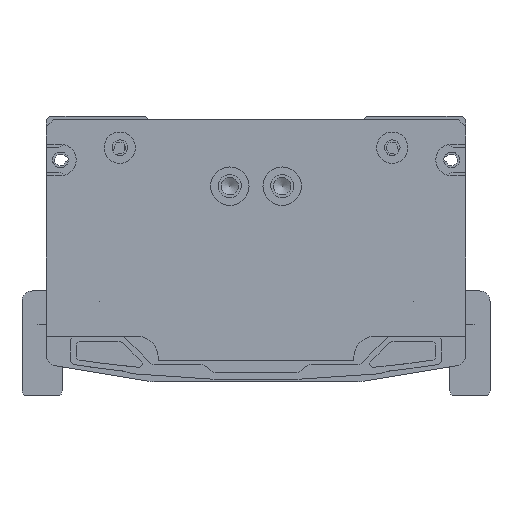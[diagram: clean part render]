
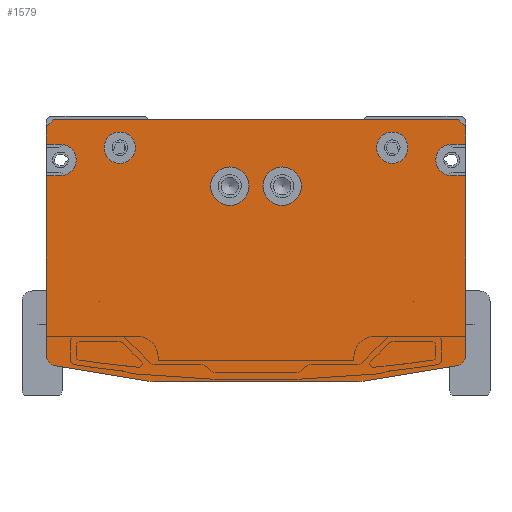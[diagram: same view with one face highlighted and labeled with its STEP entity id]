
A CAD part, front view. The second image highlights one B-rep face of the part: STEP entity #1579.
In plain terms, the highlighted planar face has unit normal (0, -1, 0).
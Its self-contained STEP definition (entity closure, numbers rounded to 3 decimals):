
#1579=ADVANCED_FACE('',(#4764,#4765,#4766,#4767,#4768),#2196,.F.);
#2196=PLANE('',#15707);
#2639=LINE('',#22442,#3688);
#2643=LINE('',#22450,#3692);
#2777=LINE('',#23235,#3826);
#2804=LINE('',#23289,#3853);
#2808=LINE('',#23297,#3857);
#2982=LINE('',#24484,#4031);
#2984=LINE('',#24487,#4033);
#2988=LINE('',#24494,#4037);
#2991=LINE('',#24503,#4040);
#3004=LINE('',#24538,#4053);
#3009=LINE('',#24552,#4058);
#3013=LINE('',#24564,#4062);
#3035=LINE('',#24626,#4084);
#3038=LINE('',#24635,#4087);
#3688=VECTOR('',#17406,1.);
#3692=VECTOR('',#17410,1.);
#3826=VECTOR('',#17862,1.);
#3853=VECTOR('',#17903,1.);
#3857=VECTOR('',#17907,1.);
#4031=VECTOR('',#18715,1.);
#4033=VECTOR('',#18719,1.);
#4037=VECTOR('',#18725,1.);
#4040=VECTOR('',#18736,1.);
#4053=VECTOR('',#18769,1.);
#4058=VECTOR('',#18782,1.);
#4062=VECTOR('',#18794,1.);
#4084=VECTOR('',#18870,1.);
#4087=VECTOR('',#18881,1.);
#4764=FACE_BOUND('',#5836,.T.);
#4765=FACE_BOUND('',#5837,.T.);
#4766=FACE_BOUND('',#5838,.T.);
#4767=FACE_BOUND('',#5839,.T.);
#4768=FACE_BOUND('',#5840,.T.);
#5836=EDGE_LOOP('',(#8577));
#5837=EDGE_LOOP('',(#8578));
#5838=EDGE_LOOP('',(#8579,#8580,#8581,#8582,#8583,#8584,#8585,#8586,#8587,
#8588,#8589,#8590,#8591,#8592,#8593,#8594,#8595,#8596,#8597,#8598));
#5839=EDGE_LOOP('',(#8599));
#5840=EDGE_LOOP('',(#8600));
#8577=ORIENTED_EDGE('',*,*,#13139,.T.);
#8578=ORIENTED_EDGE('',*,*,#13143,.T.);
#8579=ORIENTED_EDGE('',*,*,#13204,.T.);
#8580=ORIENTED_EDGE('',*,*,#13200,.F.);
#8581=ORIENTED_EDGE('',*,*,#13198,.F.);
#8582=ORIENTED_EDGE('',*,*,#13195,.F.);
#8583=ORIENTED_EDGE('',*,*,#13191,.T.);
#8584=ORIENTED_EDGE('',*,*,#13188,.T.);
#8585=ORIENTED_EDGE('',*,*,#12833,.F.);
#8586=ORIENTED_EDGE('',*,*,#13174,.T.);
#8587=ORIENTED_EDGE('',*,*,#13171,.T.);
#8588=ORIENTED_EDGE('',*,*,#13169,.F.);
#8589=ORIENTED_EDGE('',*,*,#12829,.F.);
#8590=ORIENTED_EDGE('',*,*,#13165,.T.);
#8591=ORIENTED_EDGE('',*,*,#12802,.F.);
#8592=ORIENTED_EDGE('',*,*,#13163,.T.);
#8593=ORIENTED_EDGE('',*,*,#12556,.F.);
#8594=ORIENTED_EDGE('',*,*,#13239,.T.);
#8595=ORIENTED_EDGE('',*,*,#13236,.T.);
#8596=ORIENTED_EDGE('',*,*,#13234,.F.);
#8597=ORIENTED_EDGE('',*,*,#12552,.F.);
#8598=ORIENTED_EDGE('',*,*,#13207,.T.);
#8599=ORIENTED_EDGE('',*,*,#13150,.F.);
#8600=ORIENTED_EDGE('',*,*,#13146,.F.);
#10995=VERTEX_POINT('',#22441);
#10996=VERTEX_POINT('',#22443);
#10999=VERTEX_POINT('',#22449);
#11000=VERTEX_POINT('',#22451);
#11127=VERTEX_POINT('',#23234);
#11128=VERTEX_POINT('',#23236);
#11147=VERTEX_POINT('',#23288);
#11148=VERTEX_POINT('',#23290);
#11151=VERTEX_POINT('',#23296);
#11152=VERTEX_POINT('',#23298);
#11367=VERTEX_POINT('',#24427);
#11371=VERTEX_POINT('',#24438);
#11374=VERTEX_POINT('',#24447);
#11377=VERTEX_POINT('',#24457);
#11385=VERTEX_POINT('',#24492);
#11387=VERTEX_POINT('',#24499);
#11398=VERTEX_POINT('',#24533);
#11400=VERTEX_POINT('',#24539);
#11403=VERTEX_POINT('',#24547);
#11405=VERTEX_POINT('',#24553);
#11406=VERTEX_POINT('',#24557);
#11409=VERTEX_POINT('',#24565);
#11421=VERTEX_POINT('',#24624);
#11423=VERTEX_POINT('',#24631);
#12552=EDGE_CURVE('',#10995,#10996,#2639,.T.);
#12556=EDGE_CURVE('',#10999,#11000,#2643,.T.);
#12802=EDGE_CURVE('',#11127,#11128,#2777,.T.);
#12829=EDGE_CURVE('',#11147,#11148,#2804,.T.);
#12833=EDGE_CURVE('',#11151,#11152,#2808,.T.);
#13139=EDGE_CURVE('',#11367,#11367,#14426,.T.);
#13143=EDGE_CURVE('',#11371,#11371,#14430,.T.);
#13146=EDGE_CURVE('',#11374,#11374,#14433,.T.);
#13150=EDGE_CURVE('',#11377,#11377,#14437,.T.);
#13163=EDGE_CURVE('',#11127,#11000,#2982,.T.);
#13165=EDGE_CURVE('',#11147,#11128,#2984,.T.);
#13169=EDGE_CURVE('',#11148,#11385,#2988,.T.);
#13171=EDGE_CURVE('',#11387,#11385,#14444,.T.);
#13174=EDGE_CURVE('',#11151,#11387,#2991,.T.);
#13188=EDGE_CURVE('',#11398,#11152,#14447,.T.);
#13191=EDGE_CURVE('',#11400,#11398,#3004,.T.);
#13195=EDGE_CURVE('',#11400,#11403,#14450,.T.);
#13198=EDGE_CURVE('',#11403,#11405,#3009,.T.);
#13200=EDGE_CURVE('',#11405,#11406,#14451,.T.);
#13204=EDGE_CURVE('',#11409,#11406,#3013,.T.);
#13207=EDGE_CURVE('',#10995,#11409,#14454,.T.);
#13234=EDGE_CURVE('',#10996,#11421,#3035,.T.);
#13236=EDGE_CURVE('',#11423,#11421,#14462,.T.);
#13239=EDGE_CURVE('',#10999,#11423,#3038,.T.);
#14426=CIRCLE('',#15608,5.5);
#14430=CIRCLE('',#15615,5.5);
#14433=CIRCLE('',#15621,4.5);
#14437=CIRCLE('',#15628,4.5);
#14444=CIRCLE('',#15646,4.5);
#14447=CIRCLE('',#15655,3.);
#14450=CIRCLE('',#15660,10.);
#14451=CIRCLE('',#15663,10.);
#14454=CIRCLE('',#15668,3.);
#14462=CIRCLE('',#15695,4.5);
#15608=AXIS2_PLACEMENT_3D('',#24426,#18640,#18641);
#15615=AXIS2_PLACEMENT_3D('',#24437,#18654,#18655);
#15621=AXIS2_PLACEMENT_3D('',#24446,#18666,#18667);
#15628=AXIS2_PLACEMENT_3D('',#24456,#18680,#18681);
#15646=AXIS2_PLACEMENT_3D('',#24498,#18730,#18731);
#15655=AXIS2_PLACEMENT_3D('',#24532,#18762,#18763);
#15660=AXIS2_PLACEMENT_3D('',#24546,#18776,#18777);
#15663=AXIS2_PLACEMENT_3D('',#24556,#18786,#18787);
#15668=AXIS2_PLACEMENT_3D('',#24569,#18800,#18801);
#15695=AXIS2_PLACEMENT_3D('',#24630,#18875,#18876);
#15707=AXIS2_PLACEMENT_3D('',#24652,#18906,#18907);
#17406=DIRECTION('',(0.,0.,1.));
#17410=DIRECTION('',(0.,0.,1.));
#17862=DIRECTION('',(1.,0.,0.));
#17903=DIRECTION('',(0.,0.,-1.));
#17907=DIRECTION('',(0.,0.,-1.));
#18640=DIRECTION('',(0.,1.,0.));
#18641=DIRECTION('',(1.,0.,0.));
#18654=DIRECTION('',(0.,1.,0.));
#18655=DIRECTION('',(1.,0.,0.));
#18666=DIRECTION('',(0.,-1.,0.));
#18667=DIRECTION('',(1.,0.,0.));
#18680=DIRECTION('',(0.,-1.,0.));
#18681=DIRECTION('',(1.,0.,0.));
#18715=DIRECTION('',(-0.707,0.,-0.707));
#18719=DIRECTION('',(-0.707,0.,0.707));
#18725=DIRECTION('',(-1.,0.,0.));
#18730=DIRECTION('',(0.,1.,0.));
#18731=DIRECTION('',(0.,0.,-1.));
#18736=DIRECTION('',(-1.,0.,0.));
#18762=DIRECTION('',(0.,-1.,0.));
#18763=DIRECTION('',(0.164,0.,-0.986));
#18769=DIRECTION('',(0.986,0.,0.164));
#18776=DIRECTION('',(0.,1.,0.));
#18777=DIRECTION('',(0.164,0.,-0.986));
#18782=DIRECTION('',(-1.,0.,0.));
#18786=DIRECTION('',(0.,1.,0.));
#18787=DIRECTION('',(0.,0.,-1.));
#18794=DIRECTION('',(0.986,0.,-0.164));
#18800=DIRECTION('',(0.,-1.,0.));
#18801=DIRECTION('',(-1.,0.,0.));
#18870=DIRECTION('',(1.,0.,0.));
#18875=DIRECTION('',(0.,1.,0.));
#18876=DIRECTION('',(0.,0.,1.));
#18881=DIRECTION('',(1.,0.,0.));
#18906=DIRECTION('',(0.,1.,0.));
#18907=DIRECTION('',(1.,0.,0.));
#22441=CARTESIAN_POINT('',(-60.,-1012.,-69.459));
#22442=CARTESIAN_POINT('',(-60.,-1012.,-69.459));
#22443=CARTESIAN_POINT('',(-60.,-1012.,-18.));
#22449=CARTESIAN_POINT('',(-60.,-1012.,-9.));
#22450=CARTESIAN_POINT('',(-60.,-1012.,-9.));
#22451=CARTESIAN_POINT('',(-60.,-1012.,-4.));
#23234=CARTESIAN_POINT('',(-58.,-1012.,-2.));
#23235=CARTESIAN_POINT('',(-58.,-1012.,-2.));
#23236=CARTESIAN_POINT('',(58.,-1012.,-2.));
#23288=CARTESIAN_POINT('',(60.,-1012.,-4.));
#23289=CARTESIAN_POINT('',(60.,-1012.,-4.));
#23290=CARTESIAN_POINT('',(60.,-1012.,-9.));
#23296=CARTESIAN_POINT('',(60.,-1012.,-18.));
#23297=CARTESIAN_POINT('',(60.,-1012.,-18.));
#23298=CARTESIAN_POINT('',(60.,-1012.,-69.459));
#24426=CARTESIAN_POINT('',(7.5,-1012.,-21.));
#24427=CARTESIAN_POINT('',(13.,-1012.,-21.));
#24437=CARTESIAN_POINT('',(-7.5,-1012.,-21.));
#24438=CARTESIAN_POINT('',(-2.,-1012.,-21.));
#24446=CARTESIAN_POINT('',(-39.,-1012.,-10.));
#24447=CARTESIAN_POINT('',(-34.5,-1012.,-10.));
#24456=CARTESIAN_POINT('',(39.,-1012.,-10.));
#24457=CARTESIAN_POINT('',(43.5,-1012.,-10.));
#24484=CARTESIAN_POINT('',(-58.,-1012.,-2.));
#24487=CARTESIAN_POINT('',(60.,-1012.,-4.));
#24492=CARTESIAN_POINT('',(56.,-1012.,-9.));
#24494=CARTESIAN_POINT('',(60.,-1012.,-9.));
#24498=CARTESIAN_POINT('',(56.,-1012.,-13.5));
#24499=CARTESIAN_POINT('',(56.,-1012.,-18.));
#24503=CARTESIAN_POINT('',(60.,-1012.,-18.));
#24532=CARTESIAN_POINT('',(57.,-1012.,-69.459));
#24533=CARTESIAN_POINT('',(57.493,-1012.,-72.418));
#24538=CARTESIAN_POINT('',(30.816,-1012.,-76.864));
#24539=CARTESIAN_POINT('',(30.816,-1012.,-76.864));
#24546=CARTESIAN_POINT('',(29.172,-1012.,-67.));
#24547=CARTESIAN_POINT('',(29.172,-1012.,-77.));
#24552=CARTESIAN_POINT('',(29.172,-1012.,-77.));
#24553=CARTESIAN_POINT('',(-29.172,-1012.,-77.));
#24556=CARTESIAN_POINT('',(-29.172,-1012.,-67.));
#24557=CARTESIAN_POINT('',(-30.816,-1012.,-76.864));
#24564=CARTESIAN_POINT('',(-57.493,-1012.,-72.418));
#24565=CARTESIAN_POINT('',(-57.493,-1012.,-72.418));
#24569=CARTESIAN_POINT('',(-57.,-1012.,-69.459));
#24624=CARTESIAN_POINT('',(-56.,-1012.,-18.));
#24626=CARTESIAN_POINT('',(-60.,-1012.,-18.));
#24630=CARTESIAN_POINT('',(-56.,-1012.,-13.5));
#24631=CARTESIAN_POINT('',(-56.,-1012.,-9.));
#24635=CARTESIAN_POINT('',(-60.,-1012.,-9.));
#24652=CARTESIAN_POINT('',(0.,-1012.,-2.));
